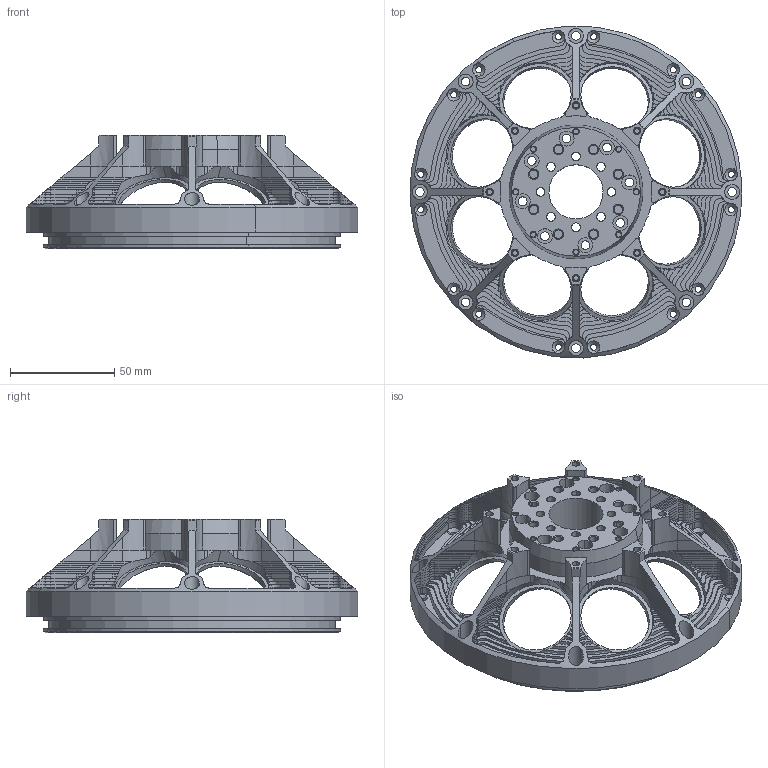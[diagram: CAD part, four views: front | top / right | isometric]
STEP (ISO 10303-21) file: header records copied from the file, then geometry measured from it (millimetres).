
FILE_DESCRIPTION(/* description */ ('(C) Elphel, Inc. 2012. Licensed under CERN OHL v.1.1 or later, see http://ohwr.org/cernohl'),/* implementation_level */ '2;1');
FILE_NAME(/* name */ '0353-19-66B',/* time_stamp */ '2012-05-07T16:47:29-06:00',/* author */ (''),/* organization */ ('Elphel, Inc'),/* preprocessor_version */ 'ST-DEVELOPER v12',/* originating_system */ 'VariCAD 2012-1.04; kernel version (20100102)',/* authorisation */ '');
FILE_SCHEMA (('AUTOMOTIVE_DESIGN'));
Length unit declared in the file: millimetre
Products named in the file (1): Part
Bounding box: 159.45 x 159.45 x 54.5 mm (x, y, z)
Volume: 130155 mm3; surface area: 89900.4 mm2
Topology: 25 solids, 25 shells, 2005 faces, 4844 edges, 2932 vertices
Faces by surface type: cylinder 1334, plane 559, cone 112
Entity records: 75858 total; most frequent: CARTESIAN_POINT 14543, DIRECTION 10222, ORIENTED_EDGE 9688, EDGE_CURVE 4844, AXIS2_PLACEMENT_3D 4163, VERTEX_POINT 2932, EDGE_LOOP 2194, CIRCLE 2132
